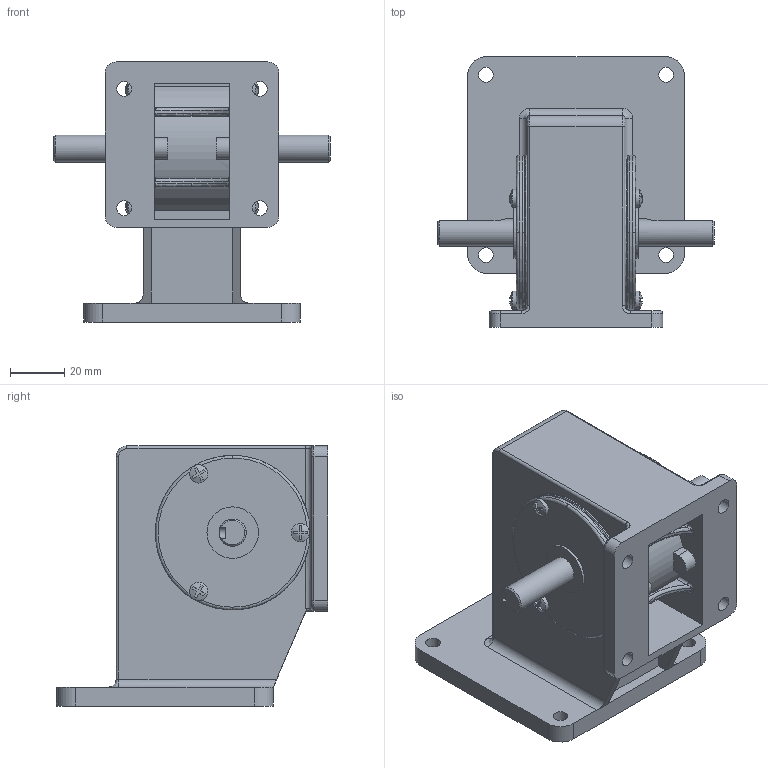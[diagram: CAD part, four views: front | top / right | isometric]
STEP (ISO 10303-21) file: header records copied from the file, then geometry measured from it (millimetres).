
FILE_DESCRIPTION (( 'STEP AP203' ), '1' );
FILE_NAME ('8WD｡滷RL.STEP', '2022-10-28T00:40:14', ( '' ), ( '' ), 'SwSTEP 2.0', 'SolidWorks 2018', '' );
FILE_SCHEMA (( 'CONFIG_CONTROL_DESIGN' ));
Length unit declared in the file: millimetre
Products named in the file (1): 8WD﹤BRL
Bounding box: 102 x 100 x 96 mm (x, y, z)
Volume: 231176.3 mm3; surface area: 53418.8 mm2
Topology: 1 solids, 1 shells, 275 faces, 719 edges, 460 vertices
Faces by surface type: plane 149, cylinder 80, bspline 42, cone 2, torus 2
Full cylindrical faces by diameter (mm): 5.5 x8, 6.7 x6, 9.7 x1, 10 x2, 19 x2, 57 x2
Entity records: 10973 total; most frequent: CARTESIAN_POINT 4674, ORIENTED_EDGE 1364, DIRECTION 1162, EDGE_CURVE 682, VERTEX_POINT 446, AXIS2_PLACEMENT_3D 406, VECTOR 350, LINE 350
